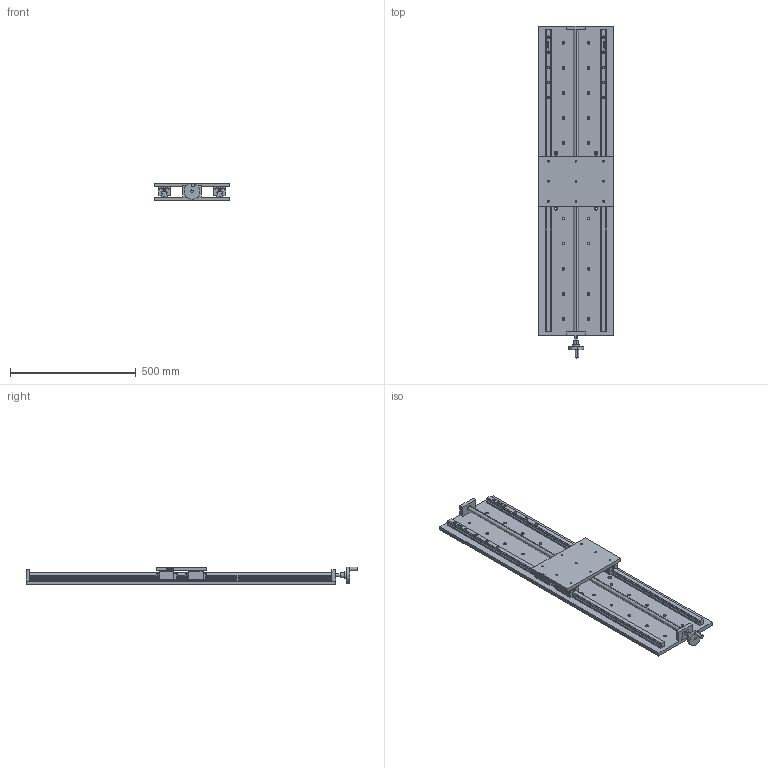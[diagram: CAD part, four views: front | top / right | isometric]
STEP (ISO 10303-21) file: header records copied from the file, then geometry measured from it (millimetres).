
FILE_DESCRIPTION (( 'STEP AP214' ), '1' );
FILE_NAME ('PT300-1000.STEP', '2022-09-18T06:22:04', ( '' ), ( '' ), 'SwSTEP 2.0', 'SolidWorks 2017', '' );
FILE_SCHEMA (( 'AUTOMOTIVE_DESIGN' ));
Length unit declared in the file: millimetre
Products named in the file (12): 醱啣; PT300-1000; HGR25_temp-1000; 標踡; 忒謫; HGH25CA2R300Z0C_GW202204023669; 34320001; M6H; 菁啣-1000; HGH25C__X2_53F35C01_X0__temp; 標踡輸; HGH25C__X2_5DE65C01_X0__temp
Assembly tree (12 placements, depth 3):
  PT300-1000
    菁啣-1000
    醱啣
    HGH25CA2R300Z0C_GW202204023669  x2
      HGR25_temp-1000
      HGH25C__X2_53F35C01_X0__temp
      M6H
      HGH25C__X2_5DE65C01_X0__temp
      34320001
    標踡
      標踡輸
      忒謫
Bounding box: 300 x 1322.1 x 70.06 mm (x, y, z)
Volume: 8394453 mm3; surface area: 1390664.3 mm2
Topology: 31 solids, 33 shells, 3089 faces, 8638 edges, 5702 vertices
Faces by surface type: plane 2001, cylinder 822, bspline 202, cone 56, torus 8
Entity records: 75429 total; most frequent: CARTESIAN_POINT 15106, ORIENTED_EDGE 9616, DIRECTION 8760, EDGE_CURVE 4808, LINE 3446, VECTOR 3446, VERTEX_POINT 3191, AXIS2_PLACEMENT_3D 2657
